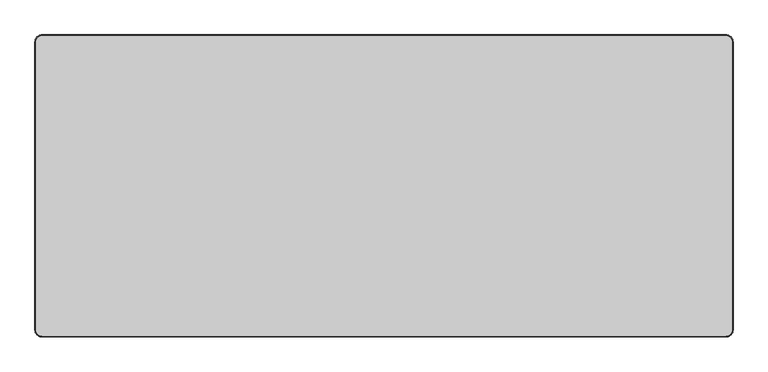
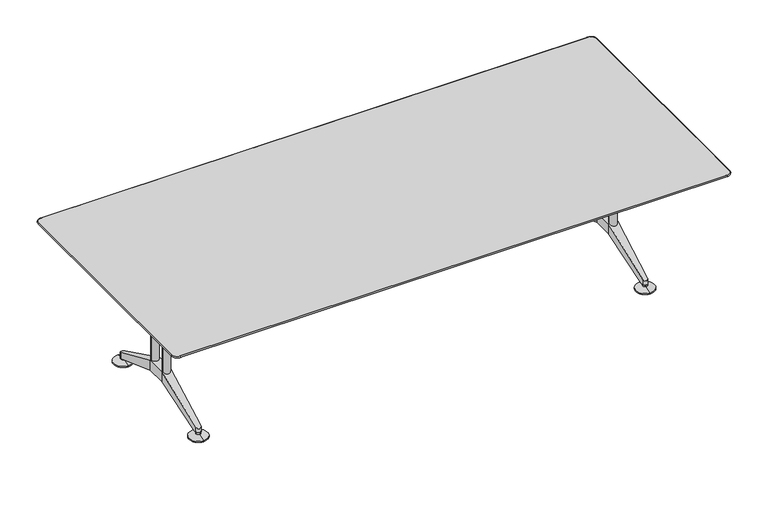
"""IFC4 building model written with IfcOpenShell, lengths in millimetres: furniture geometry, Furniture_Wilkhahn_620-00_Logon Table-Rectangle : Logon 620/00_3000L x 1300W x 730H."""

from ifc_helpers import new_model, si_unit, point, frame, frame_2d, origin, place, context, project, spatial, polyline, circle_curve, ellipse_curve, trimmed, segment, composite_curve, outline, extrude, source, transform, mapped, element, save
from ifc_brep_helpers import plane_surface, cylinder_surface, revolved_surface, advanced_brep


def furniture_56614e15(model_context):
    return source(origin(), model_context, "Body", "SolidModel", [
        advanced_brep(
        [(-1496.4081843, -593.5488456, 730.0), (-1469.5, -620.4570299, 730.0), (1469.5, -620.4570299, 730.0), (1496.4081843, -593.5488456, 730.0), (1496.4081843, 645.4511544, 730.0), (1469.5, 672.3593387, 730.0), (-1469.5, 672.3593387, 730.0), (-1496.4081843, 645.4511544, 730.0), (1469.5, 674.4200641, 723.4642141), (1498.4689097, 645.4511544, 723.4642141), (1470.6711015, 645.4511544, 703.9999792), (1469.5, 646.6222559, 703.9999792), (-1469.5, 646.6222559, 703.9999792), (-1469.5, 674.4200641, 723.4642141), (-1470.6711015, 645.4511544, 703.9999792), (-1498.4689097, 645.4511544, 723.4642141), (-1470.6711015, -593.5488456, 703.9999792), (-1498.4689097, -593.5488456, 723.4642141), (-1469.5, -594.7199471, 703.9999792), (-1469.5, -622.5177553, 723.4642141), (1469.5, -594.7199471, 703.9999792), (1469.5, -622.5177553, 723.4642141), (1470.6711015, -593.5488456, 703.9999792), (1498.4689097, -593.5488456, 723.4642141)],
        [
            (0, 1, circle_curve(frame((-1469.5, -593.5488456, 730.0), z_axis=(0.0, 0.0, 1.0), x_axis=(-1.0, 0.0, 0.0)), 26.9081843)),
            (1, 2),
            (2, 3, circle_curve(frame((1469.5, -593.5488456, 730.0), z_axis=(0.0, 0.0, 1.0), x_axis=(0.0, -1.0, 0.0)), 26.9081843)),
            (3, 4),
            (4, 5, circle_curve(frame((1469.5, 645.4511544, 730.0), z_axis=(0.0, 0.0, 1.0), x_axis=(1.0, 0.0, 0.0)), 26.9081843)),
            (5, 6),
            (6, 7, circle_curve(frame((-1469.5, 645.4511544, 730.0), z_axis=(0.0, 0.0, 1.0), x_axis=(0.0, 1.0, 0.0)), 26.9081843)),
            (7, 0),
            (8, 9, circle_curve(frame((1469.5, 645.4511544, 723.4642141), z_axis=(0.0, 0.0, -1.0), x_axis=(1.0, 0.0, 0.0)), 28.9689097)),
            (9, 10),
            (10, 11, circle_curve(frame((1469.5, 645.4511544, 703.9999792), z_axis=(0.0, 0.0, 1.0), x_axis=(1.0, 0.0, 0.0)), 1.1711015)),
            (11, 8),
            (4, 9, circle_curve(frame((1496.4081843, 645.4511544, 726.4072349), z_axis=(0.0, 1.0, 0.0), x_axis=(-1.0, 0.0, 0.0)), 3.5927651)),
            (8, 5, circle_curve(frame((1469.5, 672.3593387, 726.4072349), z_axis=(1.0, 0.0, 0.0), x_axis=(0.0, -1.0, 0.0)), 3.5927651)),
            (11, 12),
            (12, 13),
            (13, 8),
            (13, 6, circle_curve(frame((-1469.5, 672.3593387, 726.4072349), z_axis=(1.0, 0.0, 0.0), x_axis=(0.0, -1.0, 0.0)), 3.5927651)),
            (12, 14, circle_curve(frame((-1469.5, 645.4511544, 703.9999792), z_axis=(0.0, 0.0, 1.0), x_axis=(0.0, 1.0, 0.0)), 1.1711015)),
            (14, 15),
            (15, 13, circle_curve(frame((-1469.5, 645.4511544, 723.4642141), z_axis=(0.0, 0.0, -1.0), x_axis=(0.0, 1.0, 0.0)), 28.9689097)),
            (15, 7, circle_curve(frame((-1496.4081843, 645.4511544, 726.4072349), z_axis=(0.0, 1.0, 0.0), x_axis=(1.0, 0.0, 0.0)), 3.5927651)),
            (14, 16),
            (16, 17),
            (17, 15),
            (17, 0, circle_curve(frame((-1496.4081843, -593.5488456, 726.4072349), z_axis=(0.0, 1.0, 0.0), x_axis=(1.0, 0.0, 0.0)), 3.5927651)),
            (16, 18, circle_curve(frame((-1469.5, -593.5488456, 703.9999792), z_axis=(0.0, 0.0, 1.0), x_axis=(-1.0, 0.0, 0.0)), 1.1711015)),
            (18, 19),
            (19, 17, circle_curve(frame((-1469.5, -593.5488456, 723.4642141), z_axis=(0.0, 0.0, -1.0), x_axis=(-1.0, 0.0, 0.0)), 28.9689097)),
            (19, 1, circle_curve(frame((-1469.5, -620.4570299, 726.4072349), z_axis=(-1.0, 0.0, 0.0), x_axis=(0.0, 1.0, 0.0)), 3.5927651)),
            (18, 20),
            (20, 21),
            (21, 19),
            (21, 2, circle_curve(frame((1469.5, -620.4570299, 726.4072349), z_axis=(-1.0, 0.0, 0.0), x_axis=(0.0, 1.0, 0.0)), 3.5927651)),
            (20, 22, circle_curve(frame((1469.5, -593.5488456, 703.9999792), z_axis=(0.0, 0.0, 1.0), x_axis=(0.0, -1.0, 0.0)), 1.1711015)),
            (22, 23),
            (23, 21, circle_curve(frame((1469.5, -593.5488456, 723.4642141), z_axis=(0.0, 0.0, -1.0), x_axis=(0.0, -1.0, 0.0)), 28.9689097)),
            (23, 3, circle_curve(frame((1496.4081843, -593.5488456, 726.4072349), z_axis=(0.0, -1.0, 0.0), x_axis=(-1.0, 0.0, 0.0)), 3.5927651)),
            (9, 23),
            (22, 10),
        ],
        [
            plane_surface(frame((1469.5, -593.5488456, 730.0), z_axis=(0.0, 0.0, 1.0), x_axis=(0.0, -1.0, 0.0))),
            revolved_surface(polyline([(1470.6711015, 645.4511544, 703.9999792), (1498.4689097, 645.4511544, 723.4642141)]), (1469.5, 645.4511544, 730.0), (0.0, 0.0, 1.0)),
            revolved_surface(trimmed(ellipse_curve(frame((1496.4081843, 645.4511544, 726.4072349), z_axis=(0.0, -1.0, 0.0), x_axis=(-1.0, 0.0, 0.0)), 3.5927651, 3.5927651), [point((1498.4689097, 645.4511544, 723.4642141))], [point((1496.4081843, 645.4511544, 730.0))], True, "CARTESIAN"), (1469.5, 645.4511544, 730.0), (0.0, 0.0, 1.0)),
            plane_surface(frame((1469.5, 646.6222559, 703.9999792), z_axis=(0.0, 0.5735764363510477, -0.8191520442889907), x_axis=(-1.0, 0.0, 0.0))),
            cylinder_surface(frame((1469.5, 672.3593387, 726.4072349), z_axis=(1.0, 0.0, 0.0), x_axis=(0.0, -1.0, 0.0)), 3.5927651),
            revolved_surface(polyline([(-1469.5, 646.6222559, 703.9999792), (-1469.5, 674.4200641, 723.4642141)]), (-1469.5, 645.4511544, 730.0), (0.0, 0.0, 1.0)),
            revolved_surface(trimmed(ellipse_curve(frame((-1469.5, 672.3593387, 726.4072349), z_axis=(1.0, 0.0, 0.0), x_axis=(0.0, -1.0, 0.0)), 3.5927651, 3.5927651), [point((-1469.5, 674.4200641, 723.4642141))], [point((-1469.5, 672.3593387, 730.0))], True, "CARTESIAN"), (-1469.5, 645.4511544, 730.0), (0.0, 0.0, 1.0)),
            plane_surface(frame((-1470.6711015, 645.4511544, 703.9999792), z_axis=(-0.5735764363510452, 0.0, -0.8191520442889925), x_axis=(0.0, -1.0, 0.0))),
            cylinder_surface(frame((-1496.4081843, 645.4511544, 726.4072349), z_axis=(0.0, 1.0, 0.0), x_axis=(1.0, 0.0, 0.0)), 3.5927651),
            revolved_surface(polyline([(-1470.6711015, -593.5488456, 703.9999792), (-1498.4689097, -593.5488456, 723.4642141)]), (-1469.5, -593.5488456, 730.0), (0.0, 0.0, 1.0)),
            revolved_surface(trimmed(ellipse_curve(frame((-1496.4081843, -593.5488456, 726.4072349), z_axis=(0.0, 1.0, 0.0), x_axis=(1.0, 0.0, 0.0)), 3.5927651, 3.5927651), [point((-1498.4689097, -593.5488456, 723.4642141))], [point((-1496.4081843, -593.5488456, 730.0))], True, "CARTESIAN"), (-1469.5, -593.5488456, 730.0), (0.0, 0.0, 1.0)),
            plane_surface(frame((-1469.5, -594.7199471, 703.9999792), z_axis=(0.0, -0.5735764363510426, -0.8191520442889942), x_axis=(1.0, 0.0, 0.0))),
            cylinder_surface(frame((-1469.5, -620.4570299, 726.4072349), z_axis=(-1.0, 0.0, 0.0), x_axis=(0.0, 1.0, 0.0)), 3.5927651),
            revolved_surface(polyline([(1469.5, -594.7199471, 703.9999792), (1469.5, -622.5177553, 723.4642141)]), (1469.5, -593.5488456, 730.0), (0.0, 0.0, 1.0)),
            revolved_surface(trimmed(ellipse_curve(frame((1469.5, -620.4570299, 726.4072349), z_axis=(-1.0, 0.0, 0.0), x_axis=(0.0, 1.0, 0.0)), 3.5927651, 3.5927651), [point((1469.5, -622.5177553, 723.4642141))], [point((1469.5, -620.4570299, 730.0))], True, "CARTESIAN"), (1469.5, -593.5488456, 730.0), (0.0, 0.0, 1.0)),
            plane_surface(frame((1470.6711015, -593.5488456, 703.9999792), z_axis=(0.5735764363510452, 0.0, -0.8191520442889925), x_axis=(0.0, 1.0, 0.0))),
            cylinder_surface(frame((1496.4081843, -593.5488456, 726.4072349), z_axis=(0.0, -1.0, 0.0), x_axis=(-1.0, 0.0, 0.0)), 3.5927651),
            plane_surface(frame((-1469.5, 646.6222559, 703.9999792), z_axis=(0.0, 0.0, -1.0), x_axis=(1.0, 0.0, 0.0))),
        ],
        [
            (0, [[1, 2, 3, 4, 5, 6, 7, 8]]),
            (1, [[9, 10, 11, 12]]),
            (2, [[-5, 13, -9, 14]]),
            (3, [[-12, 15, 16, 17]]),
            (4, [[-6, -14, -17, 18]]),
            (5, [[-16, 19, 20, 21]]),
            (6, [[-7, -18, -21, 22]]),
            (7, [[-20, 23, 24, 25]]),
            (8, [[-8, -22, -25, 26]]),
            (9, [[-24, 27, 28, 29]]),
            (10, [[-1, -26, -29, 30]]),
            (11, [[-28, 31, 32, 33]]),
            (12, [[-2, -30, -33, 34]]),
            (13, [[-32, 35, 36, 37]]),
            (14, [[-3, -34, -37, 38]]),
            (15, [[-10, 39, -36, 40]]),
            (16, [[-4, -38, -39, -13]]),
            (17, [[-11, -40, -35, -31, -27, -23, -19, -15]]),
        ],
    ),
        advanced_brep(
        [(1200.0, 376.4755164, 0.0), (1200.0, 426.4755164, 0.0), (1200.0, 326.4755164, 0.0), (1200.0, 426.4755164, 6.0), (1200.0, 326.4755164, 6.0), (1200.0, 388.9511544, 17.0), (1200.0, 363.9998784, 17.0), (1200.0, 388.9511544, 27.0), (1200.0, 376.4755164, 27.0), (1200.0, 363.9998784, 27.0)],
        [
            (0, 1),
            (1, 2, circle_curve(frame((1200.0, 376.4755164, 0.0), z_axis=(0.0, 0.0, -1.0), x_axis=(0.0, 1.0000000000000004, 0.0)), 50.0)),
            (2, 0),
            (1, 3),
            (3, 4, circle_curve(frame((1200.0, 376.4755164, 6.0), z_axis=(0.0, 0.0, -1.0), x_axis=(0.0, 1.0000000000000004, 0.0)), 50.0)),
            (4, 2),
            (3, 5),
            (5, 6, circle_curve(frame((1200.0, 376.4755164, 17.0), z_axis=(0.0, 0.0, -1.0), x_axis=(0.0, 1.0000000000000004, 0.0)), 12.475638)),
            (6, 4),
            (7, 8),
            (8, 9),
            (9, 7, circle_curve(frame((1200.0, 376.4755164, 27.0), z_axis=(0.0, 0.0, 1.0), x_axis=(0.0, 1.0000000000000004, 0.0)), 12.475638)),
            (2, 1, circle_curve(frame((1200.0, 376.4755164, 0.0), z_axis=(0.0, 0.0, -1.0), x_axis=(0.0, 1.0000000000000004, 0.0)), 50.0)),
            (4, 3, circle_curve(frame((1200.0, 376.4755164, 6.0), z_axis=(0.0, 0.0, -1.0), x_axis=(0.0, 1.0000000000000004, 0.0)), 50.0)),
            (6, 5, circle_curve(frame((1200.0, 376.4755164, 17.0), z_axis=(0.0, 0.0, -1.0), x_axis=(0.0, 1.0000000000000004, 0.0)), 12.475638)),
            (6, 9),
            (9, 7, circle_curve(frame((1200.0, 376.4755164, 27.0), z_axis=(0.0, 0.0, -1.0), x_axis=(0.0, 1.0000000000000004, 0.0)), 12.475638)),
            (7, 5),
        ],
        [
            plane_surface(frame((1200.0, 376.4755164, 0.0), z_axis=(0.0, 0.0, -1.0), x_axis=(0.0, 1.0, 0.0))),
            cylinder_surface(frame((1200.0, 376.4755164, 27.0), z_axis=(0.0, 0.0, -1.0), x_axis=(0.0, 1.0000000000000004, 0.0)), 50.0),
            revolved_surface(polyline([(1200.0, 388.9511544, 17.0), (1200.0, 426.4755164, 6.0)]), (1200.0, 376.4755164, 27.0), (0.0, 0.0, -1.0)),
            plane_surface(frame((1200.0, 376.4755164, 27.0), z_axis=(0.0, 0.0, 1.0), x_axis=(0.0, 1.0, 0.0))),
            cylinder_surface(frame((1200.0, 376.4755164, 27.0), z_axis=(0.0, 0.0, -1.0), x_axis=(0.0, 1.0000000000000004, 0.0)), 12.475638),
        ],
        [
            (0, [[1, 2, 3]]),
            (1, [[4, 5, 6, -2]]),
            (2, [[7, 8, 9, -5]]),
            (3, [[10, 11, 12]]),
            (0, [[-3, 13, -1]]),
            (1, [[-6, 14, -4, -13]]),
            (2, [[-9, 15, -7, -14]]),
            (4, [[16, 17, 18, -15]]),
            (4, [[-18, -12, -16, -8]]),
            (3, [[-11, -10, -17]]),
        ],
    ),
        advanced_brep(
        [(1200.0, -374.5732076, 0.0), (1200.0, -324.5732076, 0.0), (1200.0, -274.5732076, 0.0), (1200.0, -374.5732076, 6.0), (1200.0, -274.5732076, 6.0), (1200.0, -337.0488456, 17.0), (1200.0, -312.0975696, 17.0), (1200.0, -337.0488456, 27.0), (1200.0, -312.0975696, 27.0), (1200.0, -324.5732076, 27.0)],
        [
            (0, 1),
            (1, 2),
            (2, 0, circle_curve(frame((1200.0, -324.5732076, 0.0), z_axis=(0.0, 0.0, -1.0), x_axis=(0.0, -1.0000000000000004, 0.0)), 50.0)),
            (3, 0),
            (2, 4),
            (4, 3, circle_curve(frame((1200.0, -324.5732076, 6.0), z_axis=(0.0, 0.0, -1.0), x_axis=(0.0, -1.0000000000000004, 0.0)), 50.0)),
            (5, 3),
            (4, 6),
            (6, 5, circle_curve(frame((1200.0, -324.5732076, 17.0), z_axis=(0.0, 0.0, -1.0), x_axis=(0.0, -1.0000000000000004, 0.0)), 12.475638)),
            (7, 5),
            (6, 8),
            (8, 7, circle_curve(frame((1200.0, -324.5732076, 27.0), z_axis=(0.0, 0.0, -1.0), x_axis=(0.0, -1.0000000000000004, 0.0)), 12.475638)),
            (0, 2, circle_curve(frame((1200.0, -324.5732076, 0.0), z_axis=(0.0, 0.0, -1.0), x_axis=(0.0, -1.0000000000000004, 0.0)), 50.0)),
            (3, 4, circle_curve(frame((1200.0, -324.5732076, 6.0), z_axis=(0.0, 0.0, -1.0), x_axis=(0.0, -1.0000000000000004, 0.0)), 50.0)),
            (5, 6, circle_curve(frame((1200.0, -324.5732076, 17.0), z_axis=(0.0, 0.0, -1.0), x_axis=(0.0, -1.0000000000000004, 0.0)), 12.475638)),
            (7, 8, circle_curve(frame((1200.0, -324.5732076, 27.0), z_axis=(0.0, 0.0, -1.0), x_axis=(0.0, -1.0000000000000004, 0.0)), 12.475638)),
            (9, 8),
            (7, 9),
        ],
        [
            plane_surface(frame((1200.0, -324.5732076, 0.0), z_axis=(0.0, 0.0, -1.0), x_axis=(0.0, -1.0, 0.0))),
            cylinder_surface(frame((1200.0, -324.5732076, 27.0), z_axis=(0.0, 0.0, 1.0), x_axis=(0.0, -1.0000000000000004, 0.0)), 50.0),
            revolved_surface(polyline([(1200.0, -374.5732076, 6.0), (1200.0, -337.0488456, 17.0)]), (1200.0, -324.5732076, 27.0), (0.0, 0.0, 1.0)),
            cylinder_surface(frame((1200.0, -324.5732076, 27.0), z_axis=(0.0, 0.0, 1.0), x_axis=(0.0, -1.0000000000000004, 0.0)), 12.475638),
            plane_surface(frame((1200.0, -324.5732076, 27.0), z_axis=(0.0, 0.0, 1.0), x_axis=(0.0, -1.0, 0.0))),
        ],
        [
            (0, [[1, 2, 3]]),
            (1, [[4, -3, 5, 6]]),
            (2, [[7, -6, 8, 9]]),
            (3, [[10, -9, 11, 12]]),
            (0, [[-2, -1, 13]]),
            (1, [[-5, -13, -4, 14]]),
            (2, [[-8, -14, -7, 15]]),
            (3, [[-11, -15, -10, 16]]),
            (4, [[17, -16, 18]]),
            (4, [[-18, -12, -17]]),
        ],
    ),
        extrude(outline(composite_curve([segment(polyline([(1225.0, 78.9511544), (1225.0, -27.0488456), (1251.7160071, -190.1086133)]), True, "CONTINUOUS"), segment(trimmed(circle_curve(frame_2d((1239.8739001, -192.0488456)), 12.0), [point((1251.7160071, -190.1086133))], [point((1239.8739001, -204.0488456))], False, "CARTESIAN"), True, "CONTINUOUS"), segment(polyline([(1239.8739001, -204.0488456), (1160.1260999, -204.0488456)]), True, "CONTINUOUS"), segment(trimmed(circle_curve(frame_2d((1160.1260999, -192.0488456)), 12.0), [point((1160.1260999, -204.0488456))], [point((1148.2839929, -190.1086133))], False, "CARTESIAN"), True, "CONTINUOUS"), segment(polyline([(1148.2839929, -190.1086133), (1175.0, -27.0488456), (1175.0, 78.9511544), (1148.2839929, 242.0109222)]), True, "CONTINUOUS"), segment(trimmed(circle_curve(frame_2d((1160.1260999, 243.9511544)), 12.0), [point((1148.2839929, 242.0109222))], [point((1160.1260999, 255.9511544))], False, "CARTESIAN"), True, "CONTINUOUS"), segment(polyline([(1160.1260999, 255.9511544), (1239.8739001, 255.9511544)]), True, "CONTINUOUS"), segment(trimmed(circle_curve(frame_2d((1239.8739001, 243.9511544)), 12.0), [point((1239.8739001, 255.9511544))], [point((1251.7160071, 242.0109222))], False, "CARTESIAN"), True, "CONTINUOUS"), segment(polyline([(1251.7160071, 242.0109222), (1225.0, 78.9511544)]), True, "CONTINUOUS")], self_intersect=False)), frame((0.0, 0.0, 675.0), z_axis=(0.0, 0.0, 1.0), x_axis=(1.0, 0.0, 0.0)), (0.0, 0.0, 1.0), 29.0),
        advanced_brep(
        [(1225.0, -27.0488456, 195.0), (1225.0, -27.0488456, 140.0), (1225.0, 78.9511544, 140.0), (1225.0, 78.9511544, 195.0), (1175.0, -27.0488456, 140.0), (1175.0, -27.0488456, 195.0), (1175.0, 78.9511544, 195.0), (1175.0, 78.9511544, 140.0), (1213.4930419, -312.0975696, 27.0), (1212.9894205, -324.5732076, 27.0), (1200.0, -337.0488456, 27.0), (1187.0105795, -324.5732076, 27.0), (1186.5069581, -312.0975696, 27.0), (1187.0105795, -324.5732076, 56.4159205), (1200.0, -337.0488456, 50.6048844), (1212.9894205, -324.5732076, 56.4159205), (1212.9894205, 376.4755164, 56.4159205), (1213.4930419, 363.9998784, 27.0), (1212.9894205, 376.4755164, 27.0), (1187.0105795, 376.4755164, 27.0), (1186.5069581, 363.9998784, 27.0), (1187.0105795, 376.4755164, 56.4159205), (1200.0, 388.9511544, 50.6048844), (1200.0, 388.9511544, 27.0)],
        [
            (0, 1),
            (1, 2),
            (2, 3),
            (3, 0),
            (4, 5),
            (5, 6),
            (6, 7),
            (7, 4),
            (8, 9),
            (9, 10, circle_curve(frame((1200.0, -324.0488456, 27.0), z_axis=(0.0, 0.0, -1.0), x_axis=(1.0000000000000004, 0.0, 0.0)), 13.0)),
            (10, 11, circle_curve(frame((1200.0, -324.0488456, 27.0), z_axis=(0.0, 0.0, -1.0), x_axis=(1.0000000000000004, 0.0, 0.0)), 13.0)),
            (11, 12),
            (12, 8),
            (5, 13),
            (13, 14, ellipse_curve(frame((1200.0, -324.0488456, 56.6601634), z_axis=(0.0, -0.42223330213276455, 0.9064871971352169), x_axis=(0.0, -0.9064871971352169, -0.42223330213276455)), 14.341074, 13.0)),
            (14, 15, ellipse_curve(frame((1200.0, -324.0488456, 56.6601634), z_axis=(0.0, -0.42223330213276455, 0.9064871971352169), x_axis=(0.0, -0.9064871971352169, -0.42223330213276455)), 14.341074, 13.0)),
            (15, 0),
            (0, 5),
            (1, 8),
            (12, 4),
            (4, 1),
            (16, 3),
            (2, 17),
            (17, 18),
            (18, 16),
            (19, 20),
            (20, 7),
            (6, 21),
            (21, 19),
            (3, 6),
            (7, 2),
            (21, 22, ellipse_curve(frame((1200.0, 375.9511544, 56.6601634), z_axis=(0.0, -0.42223330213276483, -0.906487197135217), x_axis=(0.0, 0.906487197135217, -0.42223330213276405)), 14.341074, 13.0)),
            (22, 16, ellipse_curve(frame((1200.0, 375.9511544, 56.6601634), z_axis=(0.0, -0.42223330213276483, -0.906487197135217), x_axis=(0.0, 0.906487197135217, -0.42223330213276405)), 14.341074, 13.0)),
            (18, 23, circle_curve(frame((1200.0, 375.9511544, 27.0), z_axis=(0.0, 0.0, 1.0), x_axis=(1.0000000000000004, 0.0, 0.0)), 13.0)),
            (23, 19, circle_curve(frame((1200.0, 375.9511544, 27.0), z_axis=(0.0, 0.0, 1.0), x_axis=(1.0000000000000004, 0.0, 0.0)), 13.0)),
            (11, 13),
            (9, 15),
            (17, 20),
        ],
        [
            plane_surface(frame((1225.0, -320.3023057, 27.0), z_axis=(1.0, 0.0, 0.0), x_axis=(0.0, -1.0, 0.0))),
            plane_surface(frame((1175.0, -320.3023057, 27.0), z_axis=(-1.0, 0.0, 0.0), x_axis=(0.0, 1.0, 0.0))),
            plane_surface(frame((1225.0, -312.0975696, 27.0), z_axis=(0.0, 0.0, -1.0), x_axis=(-1.0, 0.0, 0.0))),
            plane_surface(frame((1225.0, -337.0488456, 50.6048844), z_axis=(0.0, -0.42223330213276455, 0.9064871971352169), x_axis=(-1.0, 0.0, 0.0))),
            plane_surface(frame((1225.0, -27.0488456, 140.0), z_axis=(0.0, 0.36852267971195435, -0.9296187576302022), x_axis=(-1.0, 0.0, 0.0))),
            plane_surface(frame((1225.0, 78.9511544, 195.0), z_axis=(0.9991861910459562, 0.04033553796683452, 0.0), x_axis=(0.0, 0.0, -1.0))),
            plane_surface(frame((1187.0105795, 376.4755164, 195.0), z_axis=(-0.9991861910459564, 0.0403355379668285, 0.0), x_axis=(0.0, 0.0, -1.0))),
            plane_surface(frame((1225.0, -27.0488456, 195.0), z_axis=(0.0, 0.0, 1.0), x_axis=(-1.0, 0.0, 0.0))),
            plane_surface(frame((1225.0, 78.9511544, 140.0), z_axis=(0.0, 0.0, -1.0), x_axis=(-1.0, 0.0, 0.0))),
            cylinder_surface(frame((1200.0, 375.9511544, 0.0), z_axis=(0.0, 0.0, -1.0), x_axis=(1.0000000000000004, 0.0, 0.0)), 13.0),
            plane_surface(frame((1175.0, -27.0488456, 195.0), z_axis=(-0.9991861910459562, -0.040335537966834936, 0.0), x_axis=(0.0, 0.0, -1.0))),
            cylinder_surface(frame((1200.0, -324.0488456, -14.190167), z_axis=(0.0, 0.0, -1.0), x_axis=(1.0000000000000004, 0.0, 0.0)), 13.0),
            plane_surface(frame((1212.9894205, -324.5732076, 195.0), z_axis=(0.9991861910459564, -0.04033553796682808, 0.0), x_axis=(0.0, 0.0, -1.0))),
            plane_surface(frame((1225.0, 78.9511544, 195.0), z_axis=(0.0, 0.4222333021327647, 0.9064871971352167), x_axis=(-1.0, 0.0, 0.0))),
            plane_surface(frame((1225.0, 388.9511544, 27.0), z_axis=(0.0, 0.0, -1.0), x_axis=(-1.0, 0.0, 0.0))),
            plane_surface(frame((1225.0, 363.9998784, 27.0), z_axis=(0.0, -0.36852267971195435, -0.929618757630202), x_axis=(-1.0, 0.0, 0.0))),
        ],
        [
            (0, [[1, 2, 3, 4]]),
            (1, [[5, 6, 7, 8]]),
            (2, [[9, 10, 11, 12, 13]]),
            (3, [[14, 15, 16, 17, 18]]),
            (4, [[19, -13, 20, 21]]),
            (5, [[22, -3, 23, 24, 25]]),
            (6, [[26, 27, -7, 28, 29]]),
            (7, [[-18, -4, 30, -6]]),
            (8, [[31, -2, -21, -8]]),
            (9, [[32, 33, -25, 34, 35, -29]]),
            (10, [[-14, -5, -20, -12, 36]]),
            (11, [[-11, -10, 37, -16, -15, -36]]),
            (12, [[-9, -19, -1, -17, -37]]),
            (13, [[-22, -33, -32, -28, -30]]),
            (14, [[-26, -35, -34, -24, 38]]),
            (15, [[-27, -38, -23, -31]]),
        ],
    ),
        extrude(outline(composite_curve([segment(trimmed(circle_curve(frame_2d((1200.0, 78.9511544)), 20.0), [point((1180.0, 78.9511544))], [point((1220.0, 78.9511544))], False, "CARTESIAN"), True, "CONTINUOUS"), segment(trimmed(circle_curve(frame_2d((1200.0, 78.9511544)), 20.0), [point((1220.0, 78.9511544))], [point((1180.0, 78.9511544))], False, "CARTESIAN"), True, "CONTINUOUS")], self_intersect=False)), frame((0.0, 0.0, 140.0), z_axis=(0.0, 0.0, 1.0), x_axis=(1.0, 0.0, 0.0)), (0.0, 0.0, 1.0), 535.0),
        extrude(outline(composite_curve([segment(trimmed(circle_curve(frame_2d((1200.0, -27.0488456)), 20.0), [point((1180.0, -27.0488456))], [point((1220.0, -27.0488456))], False, "CARTESIAN"), True, "CONTINUOUS"), segment(trimmed(circle_curve(frame_2d((1200.0, -27.0488456)), 20.0), [point((1220.0, -27.0488456))], [point((1180.0, -27.0488456))], False, "CARTESIAN"), True, "CONTINUOUS")], self_intersect=False)), frame((0.0, 0.0, 140.0), z_axis=(0.0, 0.0, 1.0), x_axis=(1.0, 0.0, 0.0)), (0.0, 0.0, 1.0), 535.0),
        advanced_brep(
        [(-1200.0, 376.4755164, 0.0), (-1200.0, 326.4755164, 0.0), (-1200.0, 426.4755164, 0.0), (-1200.0, 326.4755164, 6.0), (-1200.0, 426.4755164, 6.0), (-1200.0, 363.9998784, 17.0), (-1200.0, 388.9511544, 17.0), (-1200.0, 388.9511544, 27.0), (-1200.0, 363.9998784, 27.0), (-1200.0, 376.4755164, 27.0)],
        [
            (0, 1),
            (1, 2, circle_curve(frame((-1200.0, 376.4755164, 0.0), z_axis=(0.0, 0.0, -1.0), x_axis=(0.0, 1.0000000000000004, 0.0)), 50.0)),
            (2, 0),
            (1, 3),
            (3, 4, circle_curve(frame((-1200.0, 376.4755164, 6.0), z_axis=(0.0, 0.0, -1.0), x_axis=(0.0, 1.0000000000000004, 0.0)), 50.0)),
            (4, 2),
            (3, 5),
            (5, 6, circle_curve(frame((-1200.0, 376.4755164, 17.0), z_axis=(0.0, 0.0, -1.0), x_axis=(0.0, 1.0000000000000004, 0.0)), 12.475638)),
            (6, 4),
            (7, 8, circle_curve(frame((-1200.0, 376.4755164, 27.0), z_axis=(0.0, 0.0, 1.0), x_axis=(0.0, 1.0000000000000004, 0.0)), 12.475638)),
            (8, 9),
            (9, 7),
            (2, 1, circle_curve(frame((-1200.0, 376.4755164, 0.0), z_axis=(0.0, 0.0, -1.0), x_axis=(0.0, 1.0000000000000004, 0.0)), 50.0)),
            (4, 3, circle_curve(frame((-1200.0, 376.4755164, 6.0), z_axis=(0.0, 0.0, -1.0), x_axis=(0.0, 1.0000000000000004, 0.0)), 50.0)),
            (6, 5, circle_curve(frame((-1200.0, 376.4755164, 17.0), z_axis=(0.0, 0.0, -1.0), x_axis=(0.0, 1.0000000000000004, 0.0)), 12.475638)),
            (6, 7),
            (7, 8, circle_curve(frame((-1200.0, 376.4755164, 27.0), z_axis=(0.0, 0.0, -1.0), x_axis=(0.0, 1.0000000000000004, 0.0)), 12.475638)),
            (8, 5),
        ],
        [
            plane_surface(frame((-1200.0, 376.4755164, 0.0), z_axis=(0.0, 0.0, -1.0), x_axis=(0.0, 1.0, 0.0))),
            cylinder_surface(frame((-1200.0, 376.4755164, 27.0), z_axis=(0.0, 0.0, -1.0), x_axis=(0.0, 1.0000000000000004, 0.0)), 50.0),
            revolved_surface(polyline([(-1200.0, 388.9511544, 17.0), (-1200.0, 426.4755164, 6.0)]), (-1200.0, 376.4755164, 27.0), (0.0, 0.0, -1.0)),
            plane_surface(frame((-1200.0, 376.4755164, 27.0), z_axis=(0.0, 0.0, 1.0), x_axis=(0.0, 1.0, 0.0))),
            cylinder_surface(frame((-1200.0, 376.4755164, 27.0), z_axis=(0.0, 0.0, -1.0), x_axis=(0.0, 1.0000000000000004, 0.0)), 12.475638),
        ],
        [
            (0, [[1, 2, 3]]),
            (1, [[-2, 4, 5, 6]]),
            (2, [[-5, 7, 8, 9]]),
            (3, [[10, 11, 12]]),
            (0, [[-3, 13, -1]]),
            (1, [[-13, -6, 14, -4]]),
            (2, [[-14, -9, 15, -7]]),
            (4, [[-15, 16, 17, 18]]),
            (4, [[-8, -18, -10, -16]]),
            (3, [[-17, -12, -11]]),
        ],
    ),
        advanced_brep(
        [(-1200.0, -374.5732076, 0.0), (-1200.0, -274.5732076, 0.0), (-1200.0, -324.5732076, 0.0), (-1200.0, -374.5732076, 6.0), (-1200.0, -274.5732076, 6.0), (-1200.0, -337.0488456, 17.0), (-1200.0, -312.0975696, 17.0), (-1200.0, -337.0488456, 27.0), (-1200.0, -312.0975696, 27.0), (-1200.0, -324.5732076, 27.0)],
        [
            (0, 1, circle_curve(frame((-1200.0, -324.5732076, 0.0), z_axis=(0.0, 0.0, -1.0), x_axis=(0.0, -1.0000000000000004, 0.0)), 50.0)),
            (1, 2),
            (2, 0),
            (3, 4, circle_curve(frame((-1200.0, -324.5732076, 6.0), z_axis=(0.0, 0.0, -1.0), x_axis=(0.0, -1.0000000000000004, 0.0)), 50.0)),
            (4, 1),
            (0, 3),
            (5, 6, circle_curve(frame((-1200.0, -324.5732076, 17.0), z_axis=(0.0, 0.0, -1.0), x_axis=(0.0, -1.0000000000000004, 0.0)), 12.475638)),
            (6, 4),
            (3, 5),
            (7, 8, circle_curve(frame((-1200.0, -324.5732076, 27.0), z_axis=(0.0, 0.0, -1.0), x_axis=(0.0, -1.0000000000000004, 0.0)), 12.475638)),
            (8, 6),
            (5, 7),
            (1, 0, circle_curve(frame((-1200.0, -324.5732076, 0.0), z_axis=(0.0, 0.0, -1.0), x_axis=(0.0, -1.0000000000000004, 0.0)), 50.0)),
            (4, 3, circle_curve(frame((-1200.0, -324.5732076, 6.0), z_axis=(0.0, 0.0, -1.0), x_axis=(0.0, -1.0000000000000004, 0.0)), 50.0)),
            (6, 5, circle_curve(frame((-1200.0, -324.5732076, 17.0), z_axis=(0.0, 0.0, -1.0), x_axis=(0.0, -1.0000000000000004, 0.0)), 12.475638)),
            (8, 7, circle_curve(frame((-1200.0, -324.5732076, 27.0), z_axis=(0.0, 0.0, -1.0), x_axis=(0.0, -1.0000000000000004, 0.0)), 12.475638)),
            (9, 7),
            (8, 9),
        ],
        [
            plane_surface(frame((-1200.0, -324.5732076, 0.0), z_axis=(0.0, 0.0, -1.0), x_axis=(0.0, -1.0, 0.0))),
            cylinder_surface(frame((-1200.0, -324.5732076, 27.0), z_axis=(0.0, 0.0, 1.0), x_axis=(0.0, -1.0000000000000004, 0.0)), 50.0),
            revolved_surface(polyline([(-1200.0, -374.5732076, 6.0), (-1200.0, -337.0488456, 17.0)]), (-1200.0, -324.5732076, 27.0), (0.0, 0.0, 1.0)),
            cylinder_surface(frame((-1200.0, -324.5732076, 27.0), z_axis=(0.0, 0.0, 1.0), x_axis=(0.0, -1.0000000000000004, 0.0)), 12.475638),
            plane_surface(frame((-1200.0, -324.5732076, 27.0), z_axis=(0.0, 0.0, 1.0), x_axis=(0.0, -1.0, 0.0))),
        ],
        [
            (0, [[1, 2, 3]]),
            (1, [[4, 5, -1, 6]]),
            (2, [[7, 8, -4, 9]]),
            (3, [[10, 11, -7, 12]]),
            (0, [[13, -3, -2]]),
            (1, [[14, -6, -13, -5]]),
            (2, [[15, -9, -14, -8]]),
            (3, [[16, -12, -15, -11]]),
            (4, [[17, -16, 18]]),
            (4, [[-18, -10, -17]]),
        ],
    ),
        extrude(outline(composite_curve([segment(polyline([(-1225.0, 78.9511544), (-1251.7160071, 242.0109222)]), True, "CONTINUOUS"), segment(trimmed(circle_curve(frame_2d((-1239.8739001, 243.9511544)), 12.0), [point((-1251.7160071, 242.0109222))], [point((-1239.8739001, 255.9511544))], False, "CARTESIAN"), True, "CONTINUOUS"), segment(polyline([(-1239.8739001, 255.9511544), (-1160.1260999, 255.9511544)]), True, "CONTINUOUS"), segment(trimmed(circle_curve(frame_2d((-1160.1260999, 243.9511544)), 12.0), [point((-1160.1260999, 255.9511544))], [point((-1148.2839929, 242.0109222))], False, "CARTESIAN"), True, "CONTINUOUS"), segment(polyline([(-1148.2839929, 242.0109222), (-1175.0, 78.9511544), (-1175.0, -27.0488456), (-1148.2839929, -190.1086133)]), True, "CONTINUOUS"), segment(trimmed(circle_curve(frame_2d((-1160.1260999, -192.0488456)), 12.0), [point((-1148.2839929, -190.1086133))], [point((-1160.1260999, -204.0488456))], False, "CARTESIAN"), True, "CONTINUOUS"), segment(polyline([(-1160.1260999, -204.0488456), (-1239.8739001, -204.0488456)]), True, "CONTINUOUS"), segment(trimmed(circle_curve(frame_2d((-1239.8739001, -192.0488456)), 12.0), [point((-1239.8739001, -204.0488456))], [point((-1251.7160071, -190.1086133))], False, "CARTESIAN"), True, "CONTINUOUS"), segment(polyline([(-1251.7160071, -190.1086133), (-1225.0, -27.0488456), (-1225.0, 78.9511544)]), True, "CONTINUOUS")], self_intersect=False)), frame((0.0, 0.0, 675.0), z_axis=(0.0, 0.0, 1.0), x_axis=(1.0, 0.0, 0.0)), (0.0, 0.0, 1.0), 29.0),
        advanced_brep(
        [(-1225.0, -27.0488456, 195.0), (-1225.0, 78.9511544, 195.0), (-1225.0, 78.9511544, 140.0), (-1225.0, -27.0488456, 140.0), (-1175.0, -27.0488456, 140.0), (-1175.0, 78.9511544, 140.0), (-1175.0, 78.9511544, 195.0), (-1175.0, -27.0488456, 195.0), (-1213.4930419, -312.0975696, 27.0), (-1186.5069581, -312.0975696, 27.0), (-1187.0105795, -324.5732076, 27.0), (-1200.0, -337.0488456, 27.0), (-1212.9894205, -324.5732076, 27.0), (-1212.9894205, -324.5732076, 56.4159205), (-1200.0, -337.0488456, 50.6048844), (-1187.0105795, -324.5732076, 56.4159205), (-1212.9894205, 376.4755164, 56.4159205), (-1212.9894205, 376.4755164, 27.0), (-1213.4930419, 363.9998784, 27.0), (-1187.0105795, 376.4755164, 27.0), (-1187.0105795, 376.4755164, 56.4159205), (-1186.5069581, 363.9998784, 27.0), (-1200.0, 388.9511544, 27.0), (-1200.0, 388.9511544, 50.6048844)],
        [
            (0, 1),
            (1, 2),
            (2, 3),
            (3, 0),
            (4, 5),
            (5, 6),
            (6, 7),
            (7, 4),
            (8, 9),
            (9, 10),
            (10, 11, circle_curve(frame((-1200.0, -324.0488456, 27.0), z_axis=(0.0, 0.0, -1.0), x_axis=(-1.0000000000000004, 0.0, 0.0)), 13.0)),
            (11, 12, circle_curve(frame((-1200.0, -324.0488456, 27.0), z_axis=(0.0, 0.0, -1.0), x_axis=(-1.0000000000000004, 0.0, 0.0)), 13.0)),
            (12, 8),
            (7, 0),
            (0, 13),
            (13, 14, ellipse_curve(frame((-1200.0, -324.0488456, 56.6601634), z_axis=(0.0, -0.42223330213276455, 0.9064871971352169), x_axis=(0.0, -0.9064871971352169, -0.42223330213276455)), 14.341074, 13.0)),
            (14, 15, ellipse_curve(frame((-1200.0, -324.0488456, 56.6601634), z_axis=(0.0, -0.42223330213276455, 0.9064871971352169), x_axis=(0.0, -0.9064871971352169, -0.42223330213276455)), 14.341074, 13.0)),
            (15, 7),
            (3, 4),
            (4, 9),
            (8, 3),
            (16, 17),
            (17, 18),
            (18, 2),
            (1, 16),
            (19, 20),
            (20, 6),
            (5, 21),
            (21, 19),
            (6, 1),
            (2, 5),
            (19, 22, circle_curve(frame((-1200.0, 375.9511544, 27.0), z_axis=(0.0, 0.0, 1.0), x_axis=(-1.0000000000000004, 0.0, 0.0)), 13.0)),
            (22, 17, circle_curve(frame((-1200.0, 375.9511544, 27.0), z_axis=(0.0, 0.0, 1.0), x_axis=(-1.0000000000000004, 0.0, 0.0)), 13.0)),
            (16, 23, ellipse_curve(frame((-1200.0, 375.9511544, 56.6601634), z_axis=(0.0, -0.42223330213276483, -0.906487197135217), x_axis=(0.0, 0.906487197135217, -0.42223330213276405)), 14.341074, 13.0)),
            (23, 20, ellipse_curve(frame((-1200.0, 375.9511544, 56.6601634), z_axis=(0.0, -0.42223330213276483, -0.906487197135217), x_axis=(0.0, 0.906487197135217, -0.42223330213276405)), 14.341074, 13.0)),
            (15, 10),
            (13, 12),
            (21, 18),
        ],
        [
            plane_surface(frame((-1225.0, -320.3023057, 27.0), z_axis=(-1.0, 0.0, 0.0), x_axis=(0.0, -1.0, 0.0))),
            plane_surface(frame((-1175.0, -320.3023057, 27.0), z_axis=(1.0, 0.0, 0.0), x_axis=(0.0, 1.0, 0.0))),
            plane_surface(frame((-1225.0, -312.0975696, 27.0), z_axis=(0.0, 0.0, -1.0), x_axis=(1.0, 0.0, 0.0))),
            plane_surface(frame((-1225.0, -337.0488456, 50.6048844), z_axis=(0.0, -0.42223330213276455, 0.9064871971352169), x_axis=(1.0, 0.0, 0.0))),
            plane_surface(frame((-1225.0, -27.0488456, 140.0), z_axis=(0.0, 0.36852267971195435, -0.9296187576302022), x_axis=(1.0, 0.0, 0.0))),
            plane_surface(frame((-1225.0, 78.9511544, 195.0), z_axis=(-0.9991861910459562, 0.04033553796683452, 0.0), x_axis=(0.0, 0.0, -1.0))),
            plane_surface(frame((-1187.0105795, 376.4755164, 195.0), z_axis=(0.9991861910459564, 0.0403355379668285, 0.0), x_axis=(0.0, 0.0, -1.0))),
            plane_surface(frame((-1225.0, -27.0488456, 195.0), z_axis=(0.0, 0.0, 1.0), x_axis=(1.0, 0.0, 0.0))),
            plane_surface(frame((-1225.0, 78.9511544, 140.0), z_axis=(0.0, 0.0, -1.0), x_axis=(1.0, 0.0, 0.0))),
            cylinder_surface(frame((-1200.0, 375.9511544, 0.0), z_axis=(0.0, 0.0, -1.0), x_axis=(-1.0000000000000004, 0.0, 0.0)), 13.0),
            plane_surface(frame((-1175.0, -27.0488456, 195.0), z_axis=(0.9991861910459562, -0.040335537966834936, 0.0), x_axis=(0.0, 0.0, -1.0))),
            cylinder_surface(frame((-1200.0, -324.0488456, -14.190167), z_axis=(0.0, 0.0, -1.0), x_axis=(-1.0000000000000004, 0.0, 0.0)), 13.0),
            plane_surface(frame((-1212.9894205, -324.5732076, 195.0), z_axis=(-0.9991861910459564, -0.04033553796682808, 0.0), x_axis=(0.0, 0.0, -1.0))),
            plane_surface(frame((-1225.0, 78.9511544, 195.0), z_axis=(0.0, 0.4222333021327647, 0.9064871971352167), x_axis=(1.0, 0.0, 0.0))),
            plane_surface(frame((-1225.0, 388.9511544, 27.0), z_axis=(0.0, 0.0, -1.0), x_axis=(1.0, 0.0, 0.0))),
            plane_surface(frame((-1225.0, 363.9998784, 27.0), z_axis=(0.0, -0.36852267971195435, -0.929618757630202), x_axis=(1.0, 0.0, 0.0))),
        ],
        [
            (0, [[1, 2, 3, 4]]),
            (1, [[5, 6, 7, 8]]),
            (2, [[9, 10, 11, 12, 13]]),
            (3, [[14, 15, 16, 17, 18]]),
            (4, [[19, 20, -9, 21]]),
            (5, [[22, 23, 24, -2, 25]]),
            (6, [[26, 27, -6, 28, 29]]),
            (7, [[-7, 30, -1, -14]]),
            (8, [[-5, -19, -3, 31]]),
            (9, [[-26, 32, 33, -22, 34, 35]]),
            (10, [[36, -10, -20, -8, -18]]),
            (11, [[-36, -17, -16, 37, -12, -11]]),
            (12, [[-37, -15, -4, -21, -13]]),
            (13, [[-30, -27, -35, -34, -25]]),
            (14, [[38, -23, -33, -32, -29]]),
            (15, [[-31, -24, -38, -28]]),
        ],
    ),
        extrude(outline(composite_curve([segment(trimmed(circle_curve(frame_2d((-1200.0, 78.9511544)), 20.0), [point((-1180.0, 78.9511544))], [point((-1220.0, 78.9511544))], False, "CARTESIAN"), True, "CONTINUOUS"), segment(trimmed(circle_curve(frame_2d((-1200.0, 78.9511544)), 20.0), [point((-1220.0, 78.9511544))], [point((-1180.0, 78.9511544))], False, "CARTESIAN"), True, "CONTINUOUS")], self_intersect=False)), frame((0.0, 0.0, 140.0), z_axis=(0.0, 0.0, 1.0), x_axis=(1.0, 0.0, 0.0)), (0.0, 0.0, 1.0), 535.0),
        extrude(outline(composite_curve([segment(trimmed(circle_curve(frame_2d((-1200.0, -27.0488456)), 20.0), [point((-1180.0, -27.0488456))], [point((-1220.0, -27.0488456))], False, "CARTESIAN"), True, "CONTINUOUS"), segment(trimmed(circle_curve(frame_2d((-1200.0, -27.0488456)), 20.0), [point((-1220.0, -27.0488456))], [point((-1180.0, -27.0488456))], False, "CARTESIAN"), True, "CONTINUOUS")], self_intersect=False)), frame((0.0, 0.0, 140.0), z_axis=(0.0, 0.0, 1.0), x_axis=(1.0, 0.0, 0.0)), (0.0, 0.0, 1.0), 535.0),
    ])


if __name__ == "__main__":
    model = new_model("IFC4")
    model_context = context("Model", 3, world=origin())
    ifc_project = project(units=[si_unit("LENGTHUNIT", "METRE", prefix="MILLI")], contexts=[model_context])
    site = spatial("IfcSite", under=ifc_project)
    building = spatial("IfcBuilding", under=site)
    placement = place(None, origin())
    furniture_shape = furniture_56614e15(model_context)
    element("IfcFurniture", 1, ObjectType="Furniture_Wilkhahn_620-00_Logon Table-Rectangle : Logon 620/00_3000L x 1300W x 730H", at=placement, inside=building, context=model_context, shape_type="MappedRepresentation", body=[
        mapped(furniture_shape, transform((0.0, 0.0, 0.0), x_axis=(1.0, 0.0, 0.0), y_axis=(0.0, 1.0, 0.0), z_axis=(0.0, 0.0, 1.0))),
    ])
    save(model, "model.ifc")
